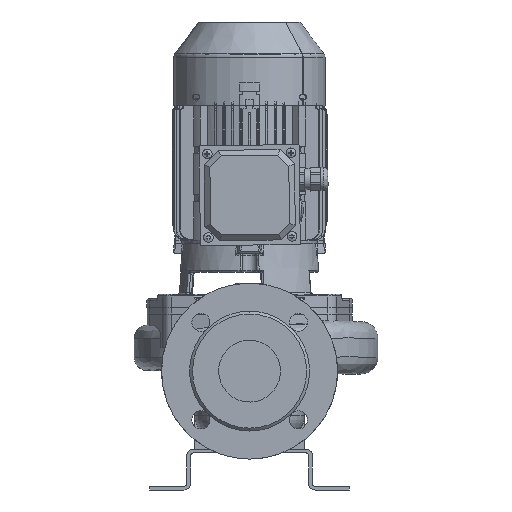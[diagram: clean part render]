
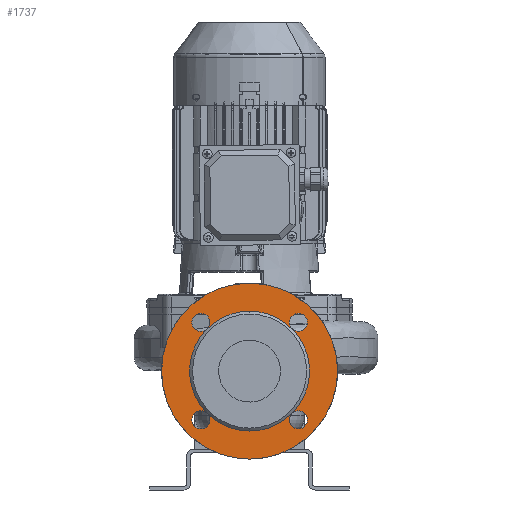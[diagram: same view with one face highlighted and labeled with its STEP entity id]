
A CAD part, front view. The second image highlights one B-rep face of the part: STEP entity #1737.
In plain terms, the highlighted planar face has unit normal (0, -1, 0) as drawn and (0, 1, 0) by its records, which use the part's own axes.
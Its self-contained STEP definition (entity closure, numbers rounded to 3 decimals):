
#1737=ADVANCED_FACE('',(#3406,#3407),#3408,.T.);
#1765=EDGE_CURVE('',#3451,#3452,#3453,.T.);
#1767=EDGE_CURVE('',#3455,#3451,#3456,.T.);
#1769=EDGE_CURVE('',#3458,#3455,#3459,.T.);
#1773=EDGE_CURVE('',#3465,#3466,#3467,.T.);
#1777=EDGE_CURVE('',#3473,#3474,#3475,.T.);
#1781=EDGE_CURVE('',#3481,#3482,#3483,.T.);
#1785=EDGE_CURVE('',#3489,#3490,#3491,.T.);
#1787=EDGE_CURVE('',#3493,#3494,#3495,.T.);
#1979=EDGE_CURVE('',#3494,#3493,#3790,.T.);
#1989=EDGE_CURVE('',#3455,#3489,#3800,.T.);
#1991=EDGE_CURVE('',#3490,#3455,#3802,.T.);
#1993=EDGE_CURVE('',#3451,#3481,#3804,.T.);
#1995=EDGE_CURVE('',#3482,#3451,#3806,.T.);
#1997=EDGE_CURVE('',#3808,#3473,#3809,.T.);
#1999=EDGE_CURVE('',#3474,#3808,#3811,.T.);
#2001=EDGE_CURVE('',#3813,#3465,#3814,.T.);
#2003=EDGE_CURVE('',#3466,#3813,#3816,.T.);
#2005=EDGE_CURVE('',#3452,#3808,#3818,.T.);
#2007=EDGE_CURVE('',#3808,#3813,#3820,.T.);
#2009=EDGE_CURVE('',#3813,#3458,#3822,.T.);
#3406=FACE_OUTER_BOUND('',#9586,.T.);
#3407=FACE_BOUND('',#9587,.T.);
#3408=PLANE('',#9588);
#3451=VERTEX_POINT('',#10525);
#3452=VERTEX_POINT('',#10526);
#3453=CIRCLE('',#10527,63.0);
#3455=VERTEX_POINT('',#10530);
#3456=CIRCLE('',#10531,63.0);
#3458=VERTEX_POINT('',#10534);
#3459=CIRCLE('',#10535,63.0);
#3465=VERTEX_POINT('',#10543);
#3466=VERTEX_POINT('',#10544);
#3467=CIRCLE('',#10545,9.5);
#3473=VERTEX_POINT('',#10553);
#3474=VERTEX_POINT('',#10554);
#3475=CIRCLE('',#10555,9.5);
#3481=VERTEX_POINT('',#10563);
#3482=VERTEX_POINT('',#10564);
#3483=CIRCLE('',#10565,9.5);
#3489=VERTEX_POINT('',#10573);
#3490=VERTEX_POINT('',#10574);
#3491=CIRCLE('',#10575,9.5);
#3493=VERTEX_POINT('',#10578);
#3494=VERTEX_POINT('',#10579);
#3495=CIRCLE('',#10580,92.5);
#3790=CIRCLE('',#11047,92.5);
#3800=CIRCLE('',#11062,9.5);
#3802=CIRCLE('',#11065,9.5);
#3804=CIRCLE('',#11068,9.5);
#3806=CIRCLE('',#11071,9.5);
#3808=VERTEX_POINT('',#11074);
#3809=CIRCLE('',#11075,9.5);
#3811=CIRCLE('',#11078,9.5);
#3813=VERTEX_POINT('',#11081);
#3814=CIRCLE('',#11082,9.5);
#3816=CIRCLE('',#11085,9.5);
#3818=CIRCLE('',#11088,63.0);
#3820=CIRCLE('',#11091,63.0);
#3822=CIRCLE('',#11094,63.0);
#9586=EDGE_LOOP('',(#18931,#18932));
#9587=EDGE_LOOP('',(#18933,#18934,#18935,#18936,#18937,#18938,#18939,#18940,#18941,#18942,#18943,#18944,#18945,#18946,#18947,#18948,#18949,#18950));
#9588=AXIS2_PLACEMENT_3D('',#18951,#18952,#18953);
#10525=CARTESIAN_POINT('',(44.548,175.,20.048));
#10526=CARTESIAN_POINT('',(0.,175.0,38.5));
#10527=AXIS2_PLACEMENT_3D('',#19051,#19052,#19053);
#10530=CARTESIAN_POINT('',(44.548,175.0,-69.048));
#10531=AXIS2_PLACEMENT_3D('',#19054,#19055,#19056);
#10534=CARTESIAN_POINT('',(0.,175.0,-87.5));
#10535=AXIS2_PLACEMENT_3D('',#19057,#19058,#19059);
#10543=CARTESIAN_POINT('',(-56.624,175.0,-67.921));
#10544=CARTESIAN_POINT('',(-45.906,175.0,-83.609));
#10545=AXIS2_PLACEMENT_3D('',#19063,#19064,#19065);
#10553=CARTESIAN_POINT('',(-43.421,175.,32.124));
#10554=CARTESIAN_POINT('',(-59.109,175.,21.406));
#10555=AXIS2_PLACEMENT_3D('',#19069,#19070,#19071);
#10563=CARTESIAN_POINT('',(56.624,175.,18.921));
#10564=CARTESIAN_POINT('',(45.906,175.,34.609));
#10565=AXIS2_PLACEMENT_3D('',#19075,#19076,#19077);
#10573=CARTESIAN_POINT('',(43.421,175.,-81.124));
#10574=CARTESIAN_POINT('',(59.109,175.,-70.406));
#10575=AXIS2_PLACEMENT_3D('',#19081,#19082,#19083);
#10578=CARTESIAN_POINT('',(0.,175.0,-117.0));
#10579=CARTESIAN_POINT('',(0.,175.0,68.0));
#10580=AXIS2_PLACEMENT_3D('',#19084,#19085,#19086);
#11047=AXIS2_PLACEMENT_3D('',#19332,#19333,#19334);
#11062=AXIS2_PLACEMENT_3D('',#19347,#19348,#19349);
#11065=AXIS2_PLACEMENT_3D('',#19350,#19351,#19352);
#11068=AXIS2_PLACEMENT_3D('',#19353,#19354,#19355);
#11071=AXIS2_PLACEMENT_3D('',#19356,#19357,#19358);
#11074=CARTESIAN_POINT('',(-44.548,175.,20.048));
#11075=AXIS2_PLACEMENT_3D('',#19359,#19360,#19361);
#11078=AXIS2_PLACEMENT_3D('',#19362,#19363,#19364);
#11081=CARTESIAN_POINT('',(-44.548,175.0,-69.048));
#11082=AXIS2_PLACEMENT_3D('',#19365,#19366,#19367);
#11085=AXIS2_PLACEMENT_3D('',#19368,#19369,#19370);
#11088=AXIS2_PLACEMENT_3D('',#19371,#19372,#19373);
#11091=AXIS2_PLACEMENT_3D('',#19374,#19375,#19376);
#11094=AXIS2_PLACEMENT_3D('',#19377,#19378,#19379);
#18931=ORIENTED_EDGE('',*,*,#1979,.F.);
#18932=ORIENTED_EDGE('',*,*,#1787,.F.);
#18933=ORIENTED_EDGE('',*,*,#1765,.T.);
#18934=ORIENTED_EDGE('',*,*,#2005,.T.);
#18935=ORIENTED_EDGE('',*,*,#1997,.T.);
#18936=ORIENTED_EDGE('',*,*,#1777,.T.);
#18937=ORIENTED_EDGE('',*,*,#1999,.T.);
#18938=ORIENTED_EDGE('',*,*,#2007,.T.);
#18939=ORIENTED_EDGE('',*,*,#2001,.T.);
#18940=ORIENTED_EDGE('',*,*,#1773,.T.);
#18941=ORIENTED_EDGE('',*,*,#2003,.T.);
#18942=ORIENTED_EDGE('',*,*,#2009,.T.);
#18943=ORIENTED_EDGE('',*,*,#1769,.T.);
#18944=ORIENTED_EDGE('',*,*,#1989,.T.);
#18945=ORIENTED_EDGE('',*,*,#1785,.T.);
#18946=ORIENTED_EDGE('',*,*,#1991,.T.);
#18947=ORIENTED_EDGE('',*,*,#1767,.T.);
#18948=ORIENTED_EDGE('',*,*,#1993,.T.);
#18949=ORIENTED_EDGE('',*,*,#1781,.T.);
#18950=ORIENTED_EDGE('',*,*,#1995,.T.);
#18951=CARTESIAN_POINT('',(0.,175.0,-102.25));
#18952=DIRECTION('',(0.0,1.0,0.0));
#18953=DIRECTION('',(0.0,0.0,1.0));
#19051=CARTESIAN_POINT('',(0.,175.0,-24.5));
#19052=DIRECTION('',(0.0,-1.0,0.0));
#19053=DIRECTION('',(0.,0.0,-1.0));
#19054=CARTESIAN_POINT('',(0.,175.0,-24.5));
#19055=DIRECTION('',(0.0,-1.0,0.0));
#19056=DIRECTION('',(0.,0.0,-1.0));
#19057=CARTESIAN_POINT('',(0.,175.0,-24.5));
#19058=DIRECTION('',(0.0,-1.0,0.0));
#19059=DIRECTION('',(0.,0.0,-1.0));
#19063=CARTESIAN_POINT('',(-51.265,175.0,-75.765));
#19064=DIRECTION('',(0.0,-1.0,0.0));
#19065=DIRECTION('',(-0.564,0.0,0.826));
#19069=CARTESIAN_POINT('',(-51.265,175.,26.765));
#19070=DIRECTION('',(0.0,-1.0,0.0));
#19071=DIRECTION('',(0.826,0.0,0.564));
#19075=CARTESIAN_POINT('',(51.265,175.,26.765));
#19076=DIRECTION('',(0.0,-1.0,0.0));
#19077=DIRECTION('',(0.564,0.0,-0.826));
#19081=CARTESIAN_POINT('',(51.265,175.,-75.765));
#19082=DIRECTION('',(0.0,-1.0,-0.0));
#19083=DIRECTION('',(-0.826,0.0,-0.564));
#19084=CARTESIAN_POINT('',(0.,175.0,-24.5));
#19085=DIRECTION('',(0.0,-1.0,0.0));
#19086=DIRECTION('',(0.,0.0,-1.0));
#19332=CARTESIAN_POINT('',(0.,175.0,-24.5));
#19333=DIRECTION('',(0.0,-1.0,0.0));
#19334=DIRECTION('',(0.,0.0,-1.0));
#19347=CARTESIAN_POINT('',(51.265,175.,-75.765));
#19348=DIRECTION('',(0.0,-1.0,-0.0));
#19349=DIRECTION('',(-0.826,0.0,-0.564));
#19350=CARTESIAN_POINT('',(51.265,175.,-75.765));
#19351=DIRECTION('',(0.0,-1.0,-0.0));
#19352=DIRECTION('',(-0.826,0.0,-0.564));
#19353=CARTESIAN_POINT('',(51.265,175.,26.765));
#19354=DIRECTION('',(0.0,-1.0,0.0));
#19355=DIRECTION('',(0.564,0.0,-0.826));
#19356=CARTESIAN_POINT('',(51.265,175.,26.765));
#19357=DIRECTION('',(0.0,-1.0,0.0));
#19358=DIRECTION('',(0.564,0.0,-0.826));
#19359=CARTESIAN_POINT('',(-51.265,175.,26.765));
#19360=DIRECTION('',(0.0,-1.0,0.0));
#19361=DIRECTION('',(0.826,0.0,0.564));
#19362=CARTESIAN_POINT('',(-51.265,175.,26.765));
#19363=DIRECTION('',(0.0,-1.0,0.0));
#19364=DIRECTION('',(0.826,0.0,0.564));
#19365=CARTESIAN_POINT('',(-51.265,175.0,-75.765));
#19366=DIRECTION('',(0.0,-1.0,0.0));
#19367=DIRECTION('',(-0.564,0.0,0.826));
#19368=CARTESIAN_POINT('',(-51.265,175.0,-75.765));
#19369=DIRECTION('',(0.0,-1.0,0.0));
#19370=DIRECTION('',(-0.564,0.0,0.826));
#19371=CARTESIAN_POINT('',(0.,175.0,-24.5));
#19372=DIRECTION('',(0.0,-1.0,0.0));
#19373=DIRECTION('',(0.,0.0,-1.0));
#19374=CARTESIAN_POINT('',(0.,175.0,-24.5));
#19375=DIRECTION('',(0.0,-1.0,0.0));
#19376=DIRECTION('',(0.,0.0,-1.0));
#19377=CARTESIAN_POINT('',(0.,175.0,-24.5));
#19378=DIRECTION('',(0.0,-1.0,0.0));
#19379=DIRECTION('',(0.,0.0,-1.0));
